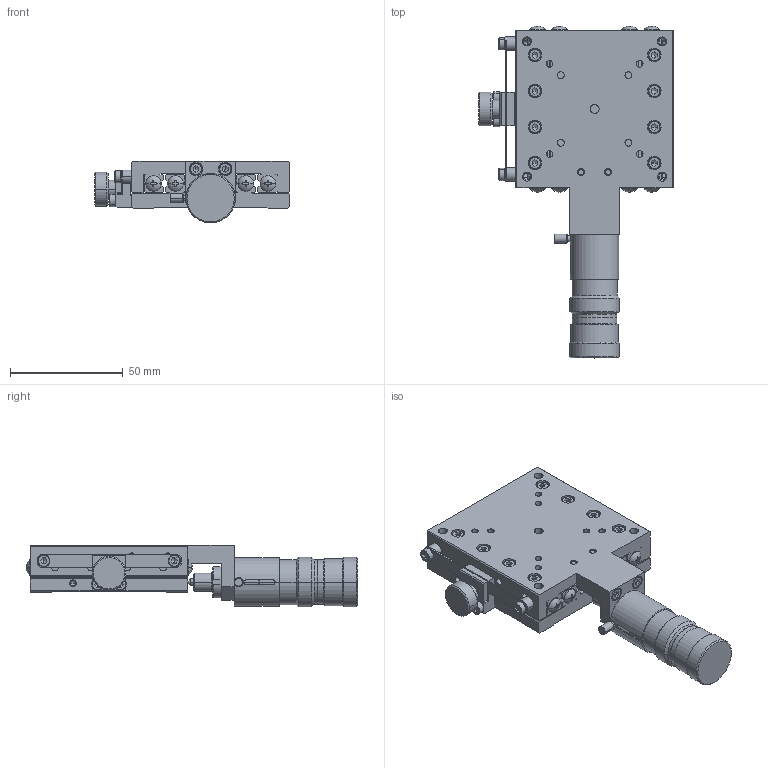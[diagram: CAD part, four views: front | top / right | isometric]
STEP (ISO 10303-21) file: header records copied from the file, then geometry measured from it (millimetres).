
FILE_DESCRIPTION (( 'STEP AP214' ), '1' );
FILE_NAME ('XM07A-C3Z-R-CL.STEP', '2009-05-11T05:34:23', ( ' ' ), ( ' ' ), 'SwSTEP 2.0', 'SolidWorks 2008', '' );
FILE_SCHEMA (( 'AUTOMOTIVE_DESIGN' ));
Length unit declared in the file: millimetre
Products named in the file (5): 001490-1023(3D)-Part-1-2; 001490-1023(3D)-2; XM07A-C3Z-R-CL; 001490-1023(3D)-Part-2-2; 001490-1011(3D)-2
Assembly tree (4 placements, depth 3):
  XM07A-C3Z-R-CL
    001490-1023(3D)-2
      001490-1023(3D)-Part-2-2
      001490-1023(3D)-Part-1-2
    001490-1011(3D)-2
Bounding box: 86.5 x 147.37 x 27.5 mm (x, y, z)
Volume: 109809.6 mm3; surface area: 52426.6 mm2
Topology: 3 solids, 40 shells, 1743 faces, 4174 edges, 2510 vertices
Faces by surface type: plane 788, cylinder 554, cone 368, sphere 17, torus 16
Entity records: 50929 total; most frequent: CARTESIAN_POINT 9627, DIRECTION 9166, ORIENTED_EDGE 8176, EDGE_CURVE 4088, AXIS2_PLACEMENT_3D 3520, VERTEX_POINT 2509, LINE 2126, VECTOR 2126
